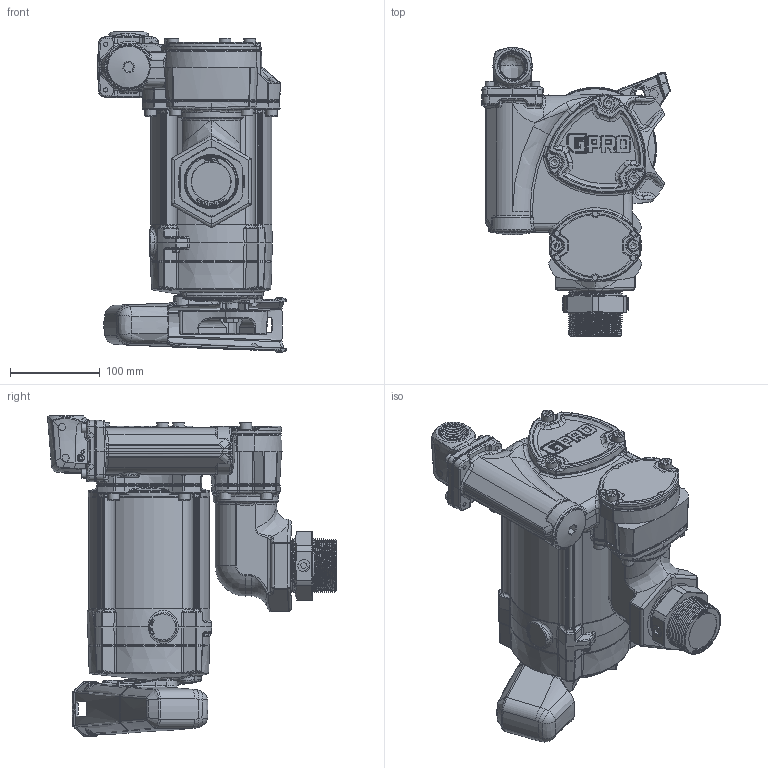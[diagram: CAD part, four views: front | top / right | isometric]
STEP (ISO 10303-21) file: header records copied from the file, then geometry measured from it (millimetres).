
FILE_DESCRIPTION(/* description */ (''),/* implementation_level */ '2;1');
FILE_NAME(/* name */ 'G:\08 - Engineering\10 - Users\Daniel Harris\V20-115_DISPLAY.stp',/* time_stamp */ '2022-12-16T13:46:55-06:00',/* author */ ('gdanhar'),/* organization */ (''),/* preprocessor_version */ 'ST-DEVELOPER v18.1',/* originating_system */ 'Autodesk Inventor 2022',/* authorisation */ '');
FILE_SCHEMA (('AUTOMOTIVE_DESIGN { 1 0 10303 214 3 1 1 }'));
Length unit declared in the file: inch
Products named in the file (1): V20-115_DISPLAY
Bounding box: 209.92 x 321.85 x 357.7 mm (x, y, z)
Volume: 5973347.9 mm3; surface area: 427768.2 mm2
Topology: 3 solids, 5 shells, 7432 faces, 18449 edges, 11184 vertices
Faces by surface type: bspline 2730, plane 2111, cylinder 1231, torus 632, cone 387, sphere 341
Full cylindrical faces by diameter (mm): 3.68 x1, 4.978 x3, 5.842 x6, 5.994 x4, 6 x11, 8 x2, 9.487 x1, 9.525 x6, 9.906 x1, 10 x8, 10.5 x2, 10.516 x1, 12.706 x1, 13 x13, 17.475 x1, 47.625 x1, 48.26 x1, 71.12 x1, 72.39 x1
Entity records: 395163 total; most frequent: CARTESIAN_POINT 226136, ORIENTED_EDGE 36680, DIRECTION 29596, EDGE_CURVE 18340, AXIS2_PLACEMENT_3D 12101, VERTEX_POINT 11180, EDGE_LOOP 7760, FACE_OUTER_BOUND 7429
